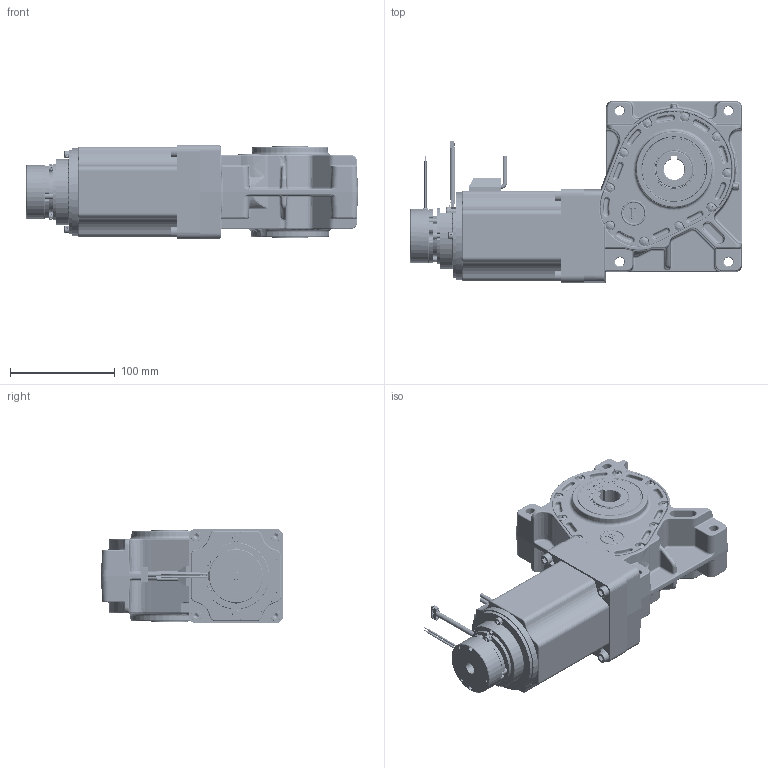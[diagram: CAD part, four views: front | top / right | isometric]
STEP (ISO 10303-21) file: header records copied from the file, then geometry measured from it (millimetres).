
FILE_DESCRIPTION (( 'STEP AP214' ), '1' );
FILE_NAME ('PBL86-55-GB65 - Encoder - Brake.STEP', '2024-09-16T11:17:51', ( '' ), ( '' ), 'SwSTEP 2.0', 'SolidWorks 2023', '' );
FILE_SCHEMA (( 'AUTOMOTIVE_DESIGN' ));
Length unit declared in the file: millimetre
Products named in the file (1): PBL86-55-GB65 - Encoder - Brake
Bounding box: 317.69 x 174.1 x 90 mm (x, y, z)
Surface area: 422143.8 mm2 (no closed solid volume)
Topology: 0 solids, 92 shells, 8825 faces, 23055 edges, 14443 vertices
Faces by surface type: cylinder 3158, plane 2663, bspline 1318, cone 796, torus 730, sphere 160
Entity records: 449431 total; most frequent: CARTESIAN_POINT 152296, ORIENTED_EDGE 45504, DIRECTION 36744, EDGE_CURVE 22754, AXIS2_PLACEMENT_3D 14944, VERTEX_POINT 14423, EDGE_LOOP 9437, UNCERTAINTY_MEASURE_WITH_UNIT 8889
